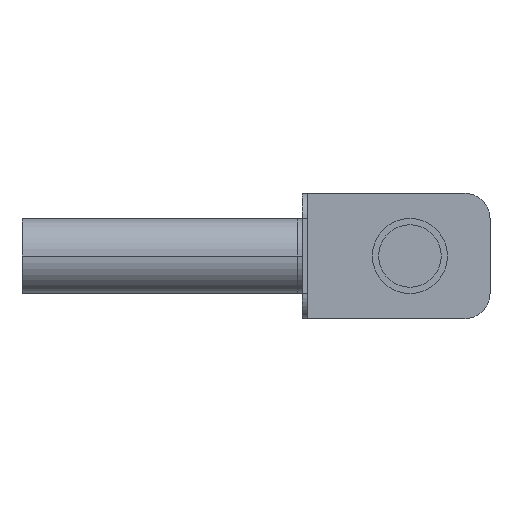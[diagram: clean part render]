
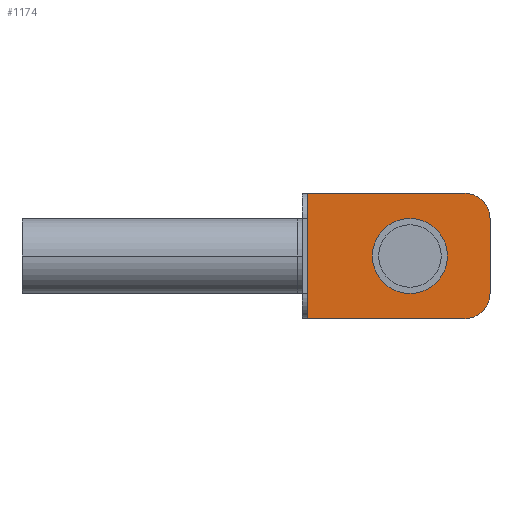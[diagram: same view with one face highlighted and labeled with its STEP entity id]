
A CAD part, front view. The second image highlights one B-rep face of the part: STEP entity #1174.
In plain terms, the highlighted planar face has unit normal (0, -1, 0).
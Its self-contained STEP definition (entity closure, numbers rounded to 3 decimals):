
#150=CARTESIAN_POINT('',(0.,128.,0.));
#151=DIRECTION('',(0.,1.,0.));
#152=DIRECTION('',(-1.,0.,0.));
#153=AXIS2_PLACEMENT_3D('',#150,#151,#152);
#196=CARTESIAN_POINT('',(0.,128.,0.));
#197=DIRECTION('',(0.,1.,0.));
#198=DIRECTION('',(1.,0.,0.));
#199=AXIS2_PLACEMENT_3D('',#196,#197,#198);
#337=CARTESIAN_POINT('',(22.,128.,-15.));
#338=DIRECTION('',(0.,-1.,0.));
#339=DIRECTION('',(0.,0.,-1.));
#340=AXIS2_PLACEMENT_3D('',#337,#338,#339);
#342=DIRECTION('',(0.,0.,1.));
#343=VECTOR('',#342,50.);
#344=CARTESIAN_POINT('',(-41.,128.,-25.));
#345=LINE('',#344,#343);
#346=CARTESIAN_POINT('',(22.,128.,15.));
#347=DIRECTION('',(0.,-1.,0.));
#348=DIRECTION('',(1.,0.,0.));
#349=AXIS2_PLACEMENT_3D('',#346,#347,#348);
#355=DIRECTION('',(0.,0.,1.));
#356=VECTOR('',#355,30.);
#357=CARTESIAN_POINT('',(32.,128.,-15.));
#358=LINE('',#357,#356);
#405=DIRECTION('',(1.,0.,0.));
#406=VECTOR('',#405,63.);
#407=CARTESIAN_POINT('',(-41.,128.,25.));
#408=LINE('',#407,#406);
#549=DIRECTION('',(1.,0.,0.));
#550=VECTOR('',#549,63.);
#551=CARTESIAN_POINT('',(-41.,128.,-25.));
#552=LINE('',#551,#550);
#685=CARTESIAN_POINT('',(-41.,128.,-25.));
#686=CARTESIAN_POINT('',(-41.,128.,25.));
#687=VERTEX_POINT('',#685);
#688=VERTEX_POINT('',#686);
#701=CARTESIAN_POINT('',(-15.,128.,0.));
#702=CARTESIAN_POINT('',(15.,128.,0.));
#703=VERTEX_POINT('',#701);
#704=VERTEX_POINT('',#702);
#761=CARTESIAN_POINT('',(22.,128.,-25.));
#762=CARTESIAN_POINT('',(32.,128.,-15.));
#763=VERTEX_POINT('',#761);
#764=VERTEX_POINT('',#762);
#773=CARTESIAN_POINT('',(32.,128.,15.));
#774=VERTEX_POINT('',#773);
#775=CARTESIAN_POINT('',(22.,128.,25.));
#776=VERTEX_POINT('',#775);
#1151=CARTESIAN_POINT('',(-41.,128.,-25.));
#1152=DIRECTION('',(0.,-1.,0.));
#1153=DIRECTION('',(1.,0.,0.));
#1154=AXIS2_PLACEMENT_3D('',#1151,#1152,#1153);
#1155=PLANE('',#1154);
#1157=ORIENTED_EDGE('',*,*,#1156,.F.);
#1159=ORIENTED_EDGE('',*,*,#1158,.F.);
#1161=ORIENTED_EDGE('',*,*,#1160,.T.);
#1163=ORIENTED_EDGE('',*,*,#1162,.T.);
#1165=ORIENTED_EDGE('',*,*,#1164,.F.);
#1167=ORIENTED_EDGE('',*,*,#1166,.F.);
#1168=EDGE_LOOP('',(#1157,#1159,#1161,#1163,#1165,#1167));
#1169=FACE_OUTER_BOUND('',#1168,.F.);
#1170=ORIENTED_EDGE('',*,*,#870,.F.);
#1171=ORIENTED_EDGE('',*,*,#948,.F.);
#1172=EDGE_LOOP('',(#1170,#1171));
#1173=FACE_BOUND('',#1172,.F.);
#154=CIRCLE('',#153,15.);
#200=CIRCLE('',#199,15.);
#341=CIRCLE('',#340,10.);
#350=CIRCLE('',#349,10.);
#870=EDGE_CURVE('',#703,#704,#154,.T.);
#948=EDGE_CURVE('',#704,#703,#200,.T.);
#1156=EDGE_CURVE('',#763,#764,#341,.T.);
#1158=EDGE_CURVE('',#687,#763,#552,.T.);
#1160=EDGE_CURVE('',#687,#688,#345,.T.);
#1162=EDGE_CURVE('',#688,#776,#408,.T.);
#1164=EDGE_CURVE('',#774,#776,#350,.T.);
#1166=EDGE_CURVE('',#764,#774,#358,.T.);
#1174=ADVANCED_FACE('',(#1169,#1173),#1155,.T.);
